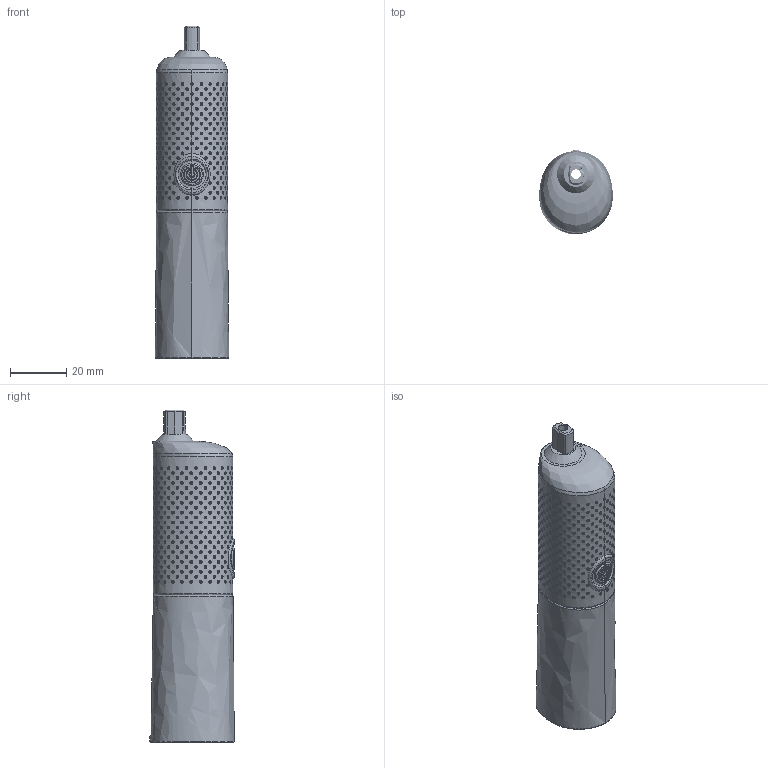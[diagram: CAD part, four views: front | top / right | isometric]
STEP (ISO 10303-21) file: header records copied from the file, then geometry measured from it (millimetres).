
FILE_DESCRIPTION(('Open CASCADE Model'),'2;1');
FILE_NAME('Open CASCADE Shape Model','2026-10-16T06:30:28',('Author'),( 'Open CASCADE'),'Open CASCADE STEP processor 7.8','Open CASCADE 7.8' ,'Unknown');
FILE_SCHEMA(('AUTOMOTIVE_DESIGN { 1 0 10303 214 1 1 1 1 }'));
Length unit declared in the file: millimetre
Products named in the file (4): HL188_rounded_hard_soft_assembly; Hard_shell; Soft_grip; Soft_button
Assembly tree (3 placements, depth 2):
  HL188_rounded_hard_soft_assembly
    Hard_shell
    Soft_grip
    Soft_button
Bounding box: 26.06 x 30.04 x 117.6 mm (x, y, z)
Volume: 18737.9 mm3; surface area: 27675.9 mm2
Topology: 3 solids, 3 shells, 3119 faces, 6147 edges, 3585 vertices
Faces by surface type: bspline 2423, cone 587, plane 66, cylinder 25, torus 14, extrusion 4
Full cylindrical faces by diameter (mm): 3.4 x1, 8 x2, 10 x1
Entity records: 396274 total; most frequent: CARTESIAN_POINT 302847, B_SPLINE_CURVE_WITH_KNOTS 14543, ORIENTED_EDGE 12286, PCURVE 12286, DEFINITIONAL_REPRESENTATION 12286, EDGE_CURVE 6143, SURFACE_CURVE 5558, DIRECTION 5338
